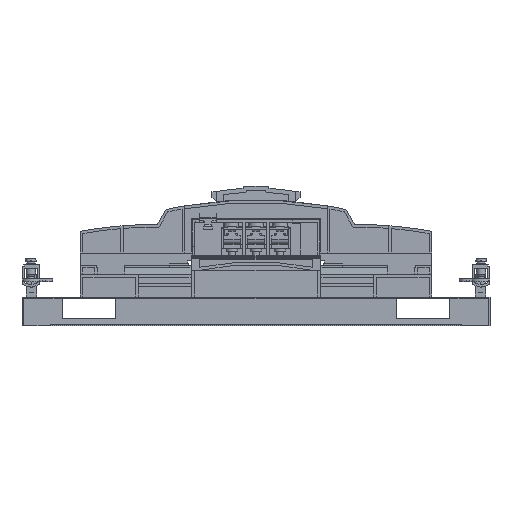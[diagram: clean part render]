
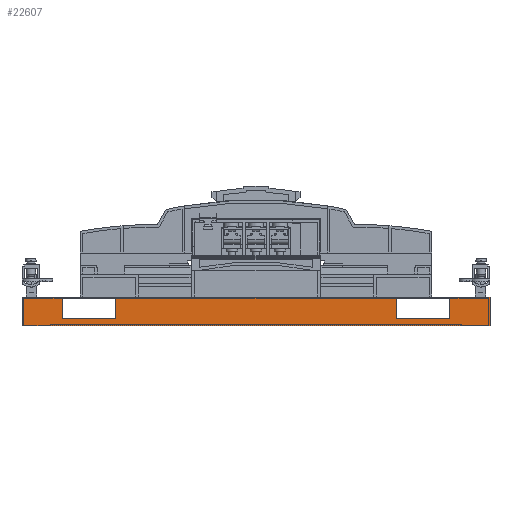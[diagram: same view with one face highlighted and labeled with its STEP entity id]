
A CAD part, front view. The second image highlights one B-rep face of the part: STEP entity #22607.
In plain terms, the highlighted planar face has unit normal (0, -1, 0).
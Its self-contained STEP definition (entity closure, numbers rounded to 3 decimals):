
#21639=DIRECTION('',(1.,0.,0.));
#21640=VECTOR('',#21639,350.);
#21641=CARTESIAN_POINT('',(0.,0.,0.));
#21642=LINE('',#21641,#21640);
#21703=DIRECTION('',(1.,0.,0.));
#21704=VECTOR('',#21703,40.);
#21705=CARTESIAN_POINT('',(30.,0.,5.565));
#21706=LINE('',#21705,#21704);
#21707=DIRECTION('',(0.,0.,-1.));
#21708=VECTOR('',#21707,16.035);
#21709=CARTESIAN_POINT('',(70.,0.,21.6));
#21710=LINE('',#21709,#21708);
#21711=DIRECTION('',(0.,0.,-1.));
#21712=VECTOR('',#21711,16.035);
#21713=CARTESIAN_POINT('',(280.,0.,21.6));
#21714=LINE('',#21713,#21712);
#21715=DIRECTION('',(1.,0.,0.));
#21716=VECTOR('',#21715,40.);
#21717=CARTESIAN_POINT('',(280.,0.,5.565));
#21718=LINE('',#21717,#21716);
#21719=DIRECTION('',(0.,0.,-1.));
#21720=VECTOR('',#21719,16.035);
#21721=CARTESIAN_POINT('',(320.,0.,21.6));
#21722=LINE('',#21721,#21720);
#21723=DIRECTION('',(0.,0.,1.));
#21724=VECTOR('',#21723,21.6);
#21725=CARTESIAN_POINT('',(0.,0.,0.));
#21726=LINE('',#21725,#21724);
#21727=DIRECTION('',(0.,0.,-1.));
#21728=VECTOR('',#21727,16.035);
#21729=CARTESIAN_POINT('',(30.,0.,21.6));
#21730=LINE('',#21729,#21728);
#21799=DIRECTION('',(1.,0.,0.));
#21800=VECTOR('',#21799,30.);
#21801=CARTESIAN_POINT('',(320.,0.,21.6));
#21802=LINE('',#21801,#21800);
#21815=DIRECTION('',(1.,0.,0.));
#21816=VECTOR('',#21815,210.);
#21817=CARTESIAN_POINT('',(70.,0.,21.6));
#21818=LINE('',#21817,#21816);
#21831=DIRECTION('',(1.,0.,0.));
#21832=VECTOR('',#21831,30.);
#21833=CARTESIAN_POINT('',(0.,0.,21.6));
#21834=LINE('',#21833,#21832);
#21947=DIRECTION('',(0.,0.,1.));
#21948=VECTOR('',#21947,21.6);
#21949=CARTESIAN_POINT('',(350.,0.,0.));
#21950=LINE('',#21949,#21948);
#22311=CARTESIAN_POINT('',(0.,0.,0.));
#22312=CARTESIAN_POINT('',(350.,0.,0.));
#22313=VERTEX_POINT('',#22311);
#22314=VERTEX_POINT('',#22312);
#22319=CARTESIAN_POINT('',(350.,0.,21.6));
#22321=VERTEX_POINT('',#22319);
#22324=CARTESIAN_POINT('',(0.,0.,21.6));
#22326=VERTEX_POINT('',#22324);
#22391=CARTESIAN_POINT('',(30.,0.,21.6));
#22393=VERTEX_POINT('',#22391);
#22395=CARTESIAN_POINT('',(70.,0.,21.6));
#22397=VERTEX_POINT('',#22395);
#22399=CARTESIAN_POINT('',(280.,0.,21.6));
#22401=VERTEX_POINT('',#22399);
#22403=CARTESIAN_POINT('',(320.,0.,21.6));
#22405=VERTEX_POINT('',#22403);
#22407=CARTESIAN_POINT('',(30.,0.,5.565));
#22408=CARTESIAN_POINT('',(70.,0.,5.565));
#22409=VERTEX_POINT('',#22407);
#22410=VERTEX_POINT('',#22408);
#22411=CARTESIAN_POINT('',(280.,0.,5.565));
#22412=CARTESIAN_POINT('',(320.,0.,5.565));
#22413=VERTEX_POINT('',#22411);
#22414=VERTEX_POINT('',#22412);
#22577=CARTESIAN_POINT('',(0.,0.,0.));
#22578=DIRECTION('',(0.,-1.,0.));
#22579=DIRECTION('',(1.,0.,0.));
#22580=AXIS2_PLACEMENT_3D('',#22577,#22578,#22579);
#22581=PLANE('',#22580);
#22583=ORIENTED_EDGE('',*,*,#22582,.T.);
#22585=ORIENTED_EDGE('',*,*,#22584,.F.);
#22587=ORIENTED_EDGE('',*,*,#22586,.T.);
#22589=ORIENTED_EDGE('',*,*,#22588,.T.);
#22591=ORIENTED_EDGE('',*,*,#22590,.T.);
#22593=ORIENTED_EDGE('',*,*,#22592,.F.);
#22595=ORIENTED_EDGE('',*,*,#22594,.T.);
#22597=ORIENTED_EDGE('',*,*,#22596,.F.);
#22598=ORIENTED_EDGE('',*,*,#22540,.F.);
#22600=ORIENTED_EDGE('',*,*,#22599,.T.);
#22602=ORIENTED_EDGE('',*,*,#22601,.T.);
#22604=ORIENTED_EDGE('',*,*,#22603,.T.);
#22605=EDGE_LOOP('',(#22583,#22585,#22587,#22589,#22591,#22593,#22595,#22597,
#22598,#22600,#22602,#22604));
#22606=FACE_OUTER_BOUND('',#22605,.F.);
#22607=ADVANCED_FACE('',(#22606),#22581,.T.);
#22540=EDGE_CURVE('',#22313,#22314,#21642,.T.);
#22582=EDGE_CURVE('',#22409,#22410,#21706,.T.);
#22584=EDGE_CURVE('',#22397,#22410,#21710,.T.);
#22586=EDGE_CURVE('',#22397,#22401,#21818,.T.);
#22588=EDGE_CURVE('',#22401,#22413,#21714,.T.);
#22590=EDGE_CURVE('',#22413,#22414,#21718,.T.);
#22592=EDGE_CURVE('',#22405,#22414,#21722,.T.);
#22594=EDGE_CURVE('',#22405,#22321,#21802,.T.);
#22596=EDGE_CURVE('',#22314,#22321,#21950,.T.);
#22599=EDGE_CURVE('',#22313,#22326,#21726,.T.);
#22601=EDGE_CURVE('',#22326,#22393,#21834,.T.);
#22603=EDGE_CURVE('',#22393,#22409,#21730,.T.);
